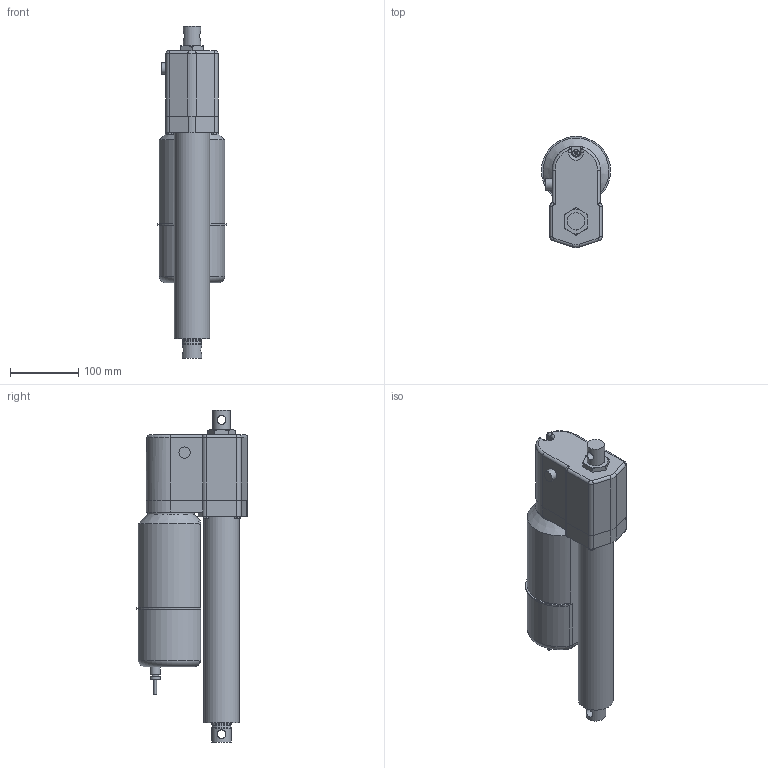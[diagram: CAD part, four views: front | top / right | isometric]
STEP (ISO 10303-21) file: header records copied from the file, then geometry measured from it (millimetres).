
FILE_DESCRIPTION (( 'STEP AP214' ), '1' );
FILE_NAME ('A42-05B5-08M0NPO-tollo.step', '2020-04-06T19:03:00', ( '' ), ( '' ), 'SwSTEP 2.0', 'SolidWorks 2010', '' );
FILE_SCHEMA (( 'AUTOMOTIVE_DESIGN' ));
Length unit declared in the file: millimetre
Products named in the file (7): Electrak-LA5-Motor-A42-05B5-08M0NPO-tollo_Electrak-LA5-Motor-A42-05B5-08M0NPO-tollo; Electrak-LA5-Rear-A42-05B5-08M0NPO-tollo_Electrak-LA5-Rear-A42-05B5-08M0NPO-tollo; Electrak-LA5-Tube-A42-05B5-08M0NPO-tollo_Electrak-LA5-Tube-A42-05B5-08M0NPO-tollo; Electrak-LA5-Rod-A42-05B5-08M0NPO-tollo_Electrak-LA5-Rod-A42-05B5-08M0NPO-tollo; Screw-MFX-H-M5-A42-05B5-08M0NPO-tollo_Screw-MFX-H-M5-A42-05B5-08M0NPO-tollo; Screw-M6S-M5-A42-05B5-08M0NPO-tollo_Screw-M6S-M5-A42-05B5-08M0NPO-tollo; A42-05B5-08M0NPO-tollo
Assembly tree (9 placements, depth 2):
  A42-05B5-08M0NPO-tollo
    Electrak-LA5-Tube-A42-05B5-08M0NPO-tollo_Electrak-LA5-Tube-A42-05B5-08M0NPO-tollo
    Electrak-LA5-Rod-A42-05B5-08M0NPO-tollo_Electrak-LA5-Rod-A42-05B5-08M0NPO-tollo
    Electrak-LA5-Motor-A42-05B5-08M0NPO-tollo_Electrak-LA5-Motor-A42-05B5-08M0NPO-tollo
    Screw-MFX-H-M5-A42-05B5-08M0NPO-tollo_Screw-MFX-H-M5-A42-05B5-08M0NPO-tollo
    Screw-M6S-M5-A42-05B5-08M0NPO-tollo_Screw-M6S-M5-A42-05B5-08M0NPO-tollo  x4
    Electrak-LA5-Rear-A42-05B5-08M0NPO-tollo_Electrak-LA5-Rear-A42-05B5-08M0NPO-tollo
Bounding box: 100.99 x 162.5 x 484.8 mm (x, y, z)
Volume: 3312803.1 mm3; surface area: 276877.1 mm2
Topology: 9 solids, 9 shells, 240 faces, 553 edges, 350 vertices
Faces by surface type: plane 96, cylinder 93, cone 31, torus 15, bspline 3, sphere 2
Full cylindrical faces by diameter (mm): 4 x1, 4.126 x5, 4.8 x2, 5 x13, 7.878 x4, 9.3 x1, 10 x1, 12.8 x2, 15 x2, 16.5 x1, 25.4 x1, 28.6 x4, 51.3 x1, 68 x1
Entity records: 5816 total; most frequent: CARTESIAN_POINT 1727, DIRECTION 814, ORIENTED_EDGE 670, AXIS2_PLACEMENT_3D 343, EDGE_CURVE 335, EDGE_LOOP 249, VERTEX_POINT 238, FACE_OUTER_BOUND 201
